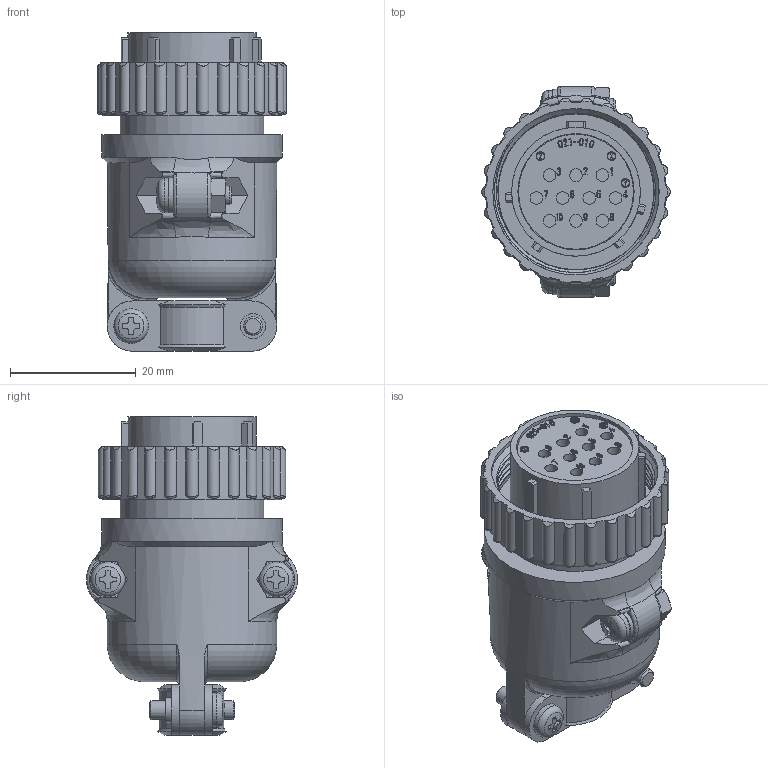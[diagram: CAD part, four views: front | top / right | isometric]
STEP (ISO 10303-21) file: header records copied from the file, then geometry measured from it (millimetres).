
FILE_DESCRIPTION (( 'STEP AP203' ), '1' );
FILE_NAME ('JMSP2110F-D.STEP', '2021-06-28T06:11:03', ( '' ), ( '' ), 'SwSTEP 2.0', 'SolidWorks 2018', '' );
FILE_SCHEMA (( 'CONFIG_CONTROL_DESIGN' ));
Length unit declared in the file: millimetre
Products named in the file (1): JMSP2110F-D
Bounding box: 30 x 33.57 x 50.7 mm (x, y, z)
Volume: 15530 mm3; surface area: 13043.5 mm2
Topology: 1 solids, 5 shells, 1216 faces, 3280 edges, 2159 vertices
Faces by surface type: plane 498, bspline 407, cylinder 207, cone 60, torus 40, sphere 4
Full cylindrical faces by diameter (mm): 1.2 x4, 1.4 x4, 1.7 x10, 2 x10, 2.4 x14, 3 x8, 3.3 x2, 3.5 x2, 4 x2, 5.5 x2, 12 x1, 18.1 x1, 18.3 x1, 18.5 x1, 20.5 x1, 20.6 x1, 22.8 x1, 23 x1, 24.8 x1, 26.1 x1, 26.5 x1, 27 x1, 28.5 x1, 28.8 x1
Entity records: 54865 total; most frequent: CARTESIAN_POINT 27893, ORIENTED_EDGE 6284, DIRECTION 4187, EDGE_CURVE 3142, VERTEX_POINT 2122, LINE 1477, VECTOR 1477, EDGE_LOOP 1414
